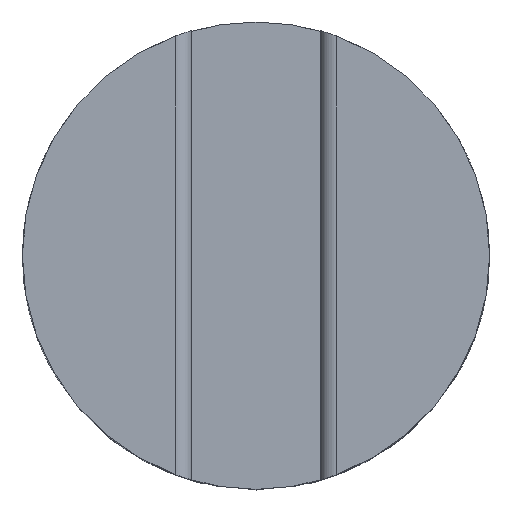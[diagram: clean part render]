
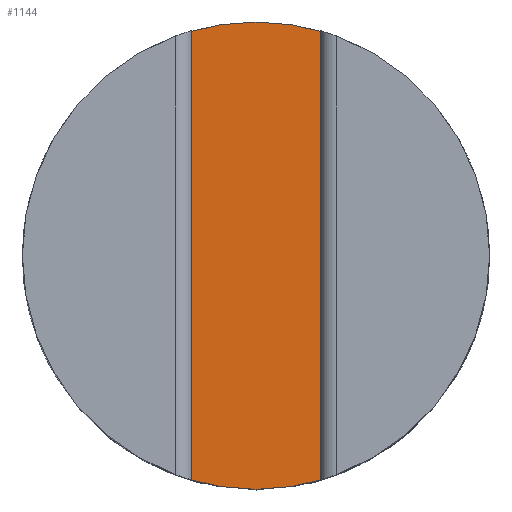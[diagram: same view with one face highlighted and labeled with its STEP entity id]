
A CAD part, top view. The second image highlights one B-rep face of the part: STEP entity #1144.
In plain terms, the highlighted planar face has unit normal (0, 0, 1).
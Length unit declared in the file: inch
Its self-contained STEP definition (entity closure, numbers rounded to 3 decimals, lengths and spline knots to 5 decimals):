
#4 = ORIENTED_EDGE ( 'NONE', *, *, #967, .F. ) ;
#67 = AXIS2_PLACEMENT_3D ( 'NONE', #261, #962, #950 ) ;
#142 = DIRECTION ( 'NONE',  ( 0., 1., 0. ) ) ;
#179 = DIRECTION ( 'NONE',  ( 0., 0., -1. ) ) ;
#183 = DIRECTION ( 'NONE',  ( 1., 0., 0. ) ) ;
#251 = LINE ( 'NONE', #742, #1038 ) ;
#261 = CARTESIAN_POINT ( 'NONE',  ( 0.899, 1.17338, -0.2502 ) ) ;
#270 = VECTOR ( 'NONE', #438, 39.37008 ) ;
#280 = EDGE_CURVE ( 'NONE', #581, #577, #1140, .T. ) ;
#302 = VERTEX_POINT ( 'NONE', #688 ) ;
#376 = EDGE_CURVE ( 'NONE', #302, #768, #701, .T. ) ;
#381 = PLANE ( 'NONE',  #67 ) ;
#415 = AXIS2_PLACEMENT_3D ( 'NONE', #444, #179, #183 ) ;
#438 = DIRECTION ( 'NONE',  ( 0., -1., 0. ) ) ;
#444 = CARTESIAN_POINT ( 'NONE',  ( 0., 0., -0.2502 ) ) ;
#478 = EDGE_CURVE ( 'NONE', #577, #302, #888, .T. ) ;
#496 = DIRECTION ( 'NONE',  ( 1., 0., 0. ) ) ;
#497 = ORIENTED_EDGE ( 'NONE', *, *, #280, .F. ) ;
#577 = VERTEX_POINT ( 'NONE', #739 ) ;
#581 = VERTEX_POINT ( 'NONE', #897 ) ;
#593 = ORIENTED_EDGE ( 'NONE', *, *, #376, .F. ) ;
#688 = CARTESIAN_POINT ( 'NONE',  ( 0.11077, -0.22412, -0.2502 ) ) ;
#701 = CIRCLE ( 'NONE', #415, 0.25 ) ;
#723 = FACE_OUTER_BOUND ( 'NONE', #881, .T. ) ;
#739 = CARTESIAN_POINT ( 'NONE',  ( 0.11077, 0.22412, -0.2502 ) ) ;
#742 = CARTESIAN_POINT ( 'NONE',  ( -0.11077, 1.17338, -0.2502 ) ) ;
#768 = VERTEX_POINT ( 'NONE', #958 ) ;
#862 = DIRECTION ( 'NONE',  ( 0., 0., -1. ) ) ;
#881 = EDGE_LOOP ( 'NONE', ( #593, #961, #497, #4 ) ) ;
#888 = LINE ( 'NONE', #960, #270 ) ;
#897 = CARTESIAN_POINT ( 'NONE',  ( -0.11077, 0.22412, -0.2502 ) ) ;
#925 = AXIS2_PLACEMENT_3D ( 'NONE', #1128, #862, #496 ) ;
#950 = DIRECTION ( 'NONE',  ( -1., 0., 0. ) ) ;
#958 = CARTESIAN_POINT ( 'NONE',  ( -0.11077, -0.22412, -0.2502 ) ) ;
#960 = CARTESIAN_POINT ( 'NONE',  ( 0.11077, 1.17338, -0.2502 ) ) ;
#961 = ORIENTED_EDGE ( 'NONE', *, *, #478, .F. ) ;
#962 = DIRECTION ( 'NONE',  ( 0., 0., -1. ) ) ;
#967 = EDGE_CURVE ( 'NONE', #768, #581, #251, .T. ) ;
#1038 = VECTOR ( 'NONE', #142, 39.37008 ) ;
#1128 = CARTESIAN_POINT ( 'NONE',  ( 0., 0., -0.2502 ) ) ;
#1140 = CIRCLE ( 'NONE', #925, 0.25 ) ;
#1144 = ADVANCED_FACE ( 'NONE', ( #723 ), #381, .F. ) ;
